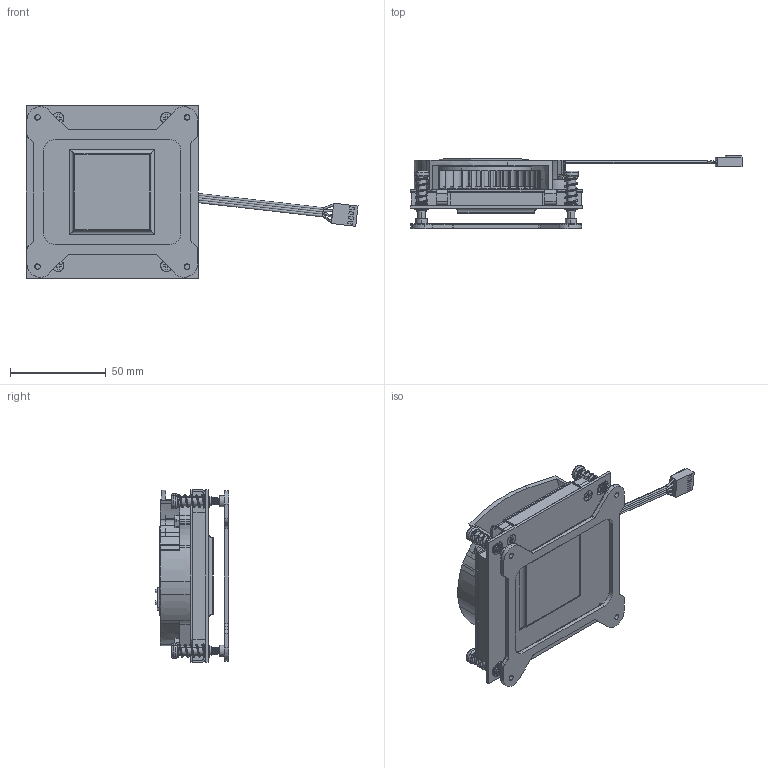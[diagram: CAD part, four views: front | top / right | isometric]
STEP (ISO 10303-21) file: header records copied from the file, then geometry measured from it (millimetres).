
FILE_DESCRIPTION((''),'2;1');
FILE_NAME('RGD3124AF1_BFZ-002_ASM_1_ASM','2022-09-06T',('User'),(''),'PRO/ENGINEER BY PARAMETRIC TECHNOLOGY CORPORATION, 2017170','PRO/ENGINEER BY PARAMETRIC TECHNOLOGY CORPORATION, 2017170','');
FILE_SCHEMA(('CONFIG_CONTROL_DESIGN'));
Products named in the file (28): PRT0001_7_1_1_1; C_BASE_ASM_1_ASM; GREASE_39_1_1; 1-0700030881-A_1_1; E-RING_1_1; SPRING__1_1; SCREW_ASSY_1_ASM_1_ASM; 17-HARGD31X40881-A_ASM_1_ASM; FAN-COVER_RG3114BF_Z_1_1; M3_8L_1_1; T3_5_10L_1_1; 850-BP-1700-5_1_1; ADHESIVE_1_1; MYLAR_1_1; 850-BP1700-5_ASM_1_ASM; 8015_BLOWER_LABEL_RGE-ST002__1; 8015_BLOWER___-7294_1; __-__1_2__1; __-__1_4__1; __-__1_3__1; __-__1_1__1; 8015_BLOWER_FAN_WIRE-WIRE_ASM_1_ASM; 8015_BLOWER_FAN_WIRE-HOUSING_1; 8015_BLOWER_FAN_WIRE-ASM_ASM_1_ASM; 8015_BLOWER___-28783_1; ASM0005_ASM_1_ASM; 8015_BLOWER_ASM_ASM_1_ASM; RGD3124AF1_BFZ-002_ASM_1_ASM
Assembly tree (36 placements, depth 6):
  RGD3124AF1_BFZ-002_ASM_1_ASM
    17-HARGD31X40881-A_ASM_1_ASM
      C_BASE_ASM_1_ASM
        PRT0001_7_1_1_1
      GREASE_39_1_1
      SCREW_ASSY_1_ASM_1_ASM  x4
        1-0700030881-A_1_1
        E-RING_1_1
        SPRING__1_1
    FAN-COVER_RG3114BF_Z_1_1
    M3_8L_1_1  x4
    T3_5_10L_1_1  x4
    850-BP1700-5_ASM_1_ASM
      850-BP-1700-5_1_1
      ADHESIVE_1_1
      MYLAR_1_1
    8015_BLOWER_ASM_ASM_1_ASM
      ASM0005_ASM_1_ASM
        8015_BLOWER_LABEL_RGE-ST002__1
        8015_BLOWER___-7294_1
        8015_BLOWER_FAN_WIRE-ASM_ASM_1_ASM
          8015_BLOWER_FAN_WIRE-WIRE_ASM_1_ASM
            __-__1_2__1
            __-__1_4__1
            __-__1_3__1
            __-__1_1__1
          8015_BLOWER_FAN_WIRE-HOUSING_1
        8015_BLOWER___-28783_1
Bounding box: 173.23 x 38.1 x 90 mm (x, y, z)
Volume: 109321.5 mm3; surface area: 85363 mm2
Topology: 34 solids, 34 shells, 3009 faces, 8584 edges, 5692 vertices
Faces by surface type: plane 1943, cylinder 770, extrusion 137, bspline 89, cone 36, torus 18, revolution 16
Entity records: 74615 total; most frequent: CARTESIAN_POINT 21940, ORIENTED_EDGE 11222, DIRECTION 10493, EDGE_CURVE 5611, VECTOR 3809, VERTEX_POINT 3727, LINE 3672, AXIS2_PLACEMENT_3D 3340
